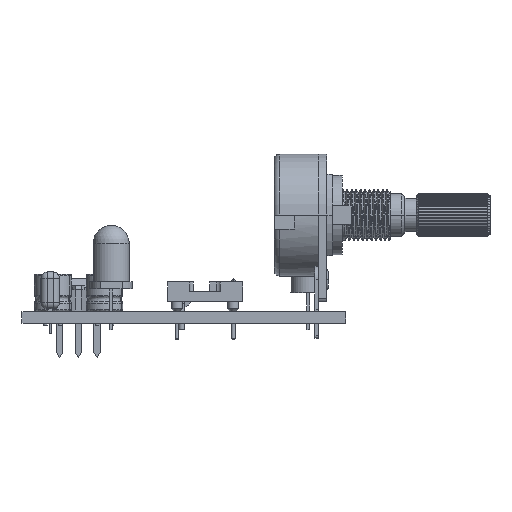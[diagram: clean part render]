
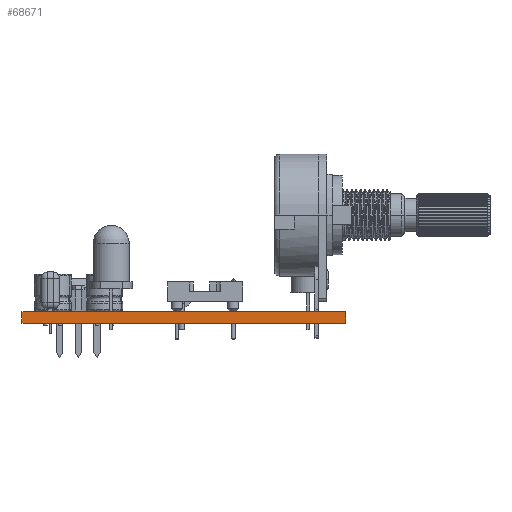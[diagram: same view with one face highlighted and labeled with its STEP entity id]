
A CAD part, front view. The second image highlights one B-rep face of the part: STEP entity #68671.
In plain terms, the highlighted planar face has unit normal (0, -1, 0).
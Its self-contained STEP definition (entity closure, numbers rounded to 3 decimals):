
#68490 = PLANE('',#68491);
#68491 = AXIS2_PLACEMENT_3D('',#68492,#68493,#68494);
#68492 = CARTESIAN_POINT('',(109.22,-24.13,0.));
#68493 = DIRECTION('',(1.,0.,0.));
#68494 = DIRECTION('',(0.,-1.,0.));
#68515 = VERTEX_POINT('',#68516);
#68516 = CARTESIAN_POINT('',(109.22,-182.88,1.6));
#68530 = PLANE('',#68531);
#68531 = AXIS2_PLACEMENT_3D('',#68532,#68533,#68534);
#68532 = CARTESIAN_POINT('',(131.128,-103.505,1.6));
#68533 = DIRECTION('',(0.,0.,1.));
#68534 = DIRECTION('',(1.,0.,0.));
#68542 = EDGE_CURVE('',#68543,#68515,#68545,.T.);
#68543 = VERTEX_POINT('',#68544);
#68544 = CARTESIAN_POINT('',(109.22,-182.88,0.));
#68545 = SURFACE_CURVE('',#68546,(#68550,#68557),.PCURVE_S1.);
#68546 = LINE('',#68547,#68548);
#68547 = CARTESIAN_POINT('',(109.22,-182.88,0.));
#68548 = VECTOR('',#68549,1.);
#68549 = DIRECTION('',(0.,0.,1.));
#68550 = PCURVE('',#68490,#68551);
#68551 = DEFINITIONAL_REPRESENTATION('',(#68552),#68556);
#68552 = LINE('',#68553,#68554);
#68553 = CARTESIAN_POINT('',(158.75,0.));
#68554 = VECTOR('',#68555,1.);
#68555 = DIRECTION('',(0.,-1.));
#68556 = ( GEOMETRIC_REPRESENTATION_CONTEXT(2) 
PARAMETRIC_REPRESENTATION_CONTEXT() REPRESENTATION_CONTEXT('2D SPACE',''
  ) );
#68557 = PCURVE('',#68558,#68563);
#68558 = PLANE('',#68559);
#68559 = AXIS2_PLACEMENT_3D('',#68560,#68561,#68562);
#68560 = CARTESIAN_POINT('',(109.22,-182.88,0.));
#68561 = DIRECTION('',(0.,1.,0.));
#68562 = DIRECTION('',(1.,0.,0.));
#68563 = DEFINITIONAL_REPRESENTATION('',(#68564),#68568);
#68564 = LINE('',#68565,#68566);
#68565 = CARTESIAN_POINT('',(0.,0.));
#68566 = VECTOR('',#68567,1.);
#68567 = DIRECTION('',(0.,-1.));
#68568 = ( GEOMETRIC_REPRESENTATION_CONTEXT(2) 
PARAMETRIC_REPRESENTATION_CONTEXT() REPRESENTATION_CONTEXT('2D SPACE',''
  ) );
#68584 = PLANE('',#68585);
#68585 = AXIS2_PLACEMENT_3D('',#68586,#68587,#68588);
#68586 = CARTESIAN_POINT('',(131.128,-103.505,0.));
#68587 = DIRECTION('',(0.,0.,1.));
#68588 = DIRECTION('',(1.,0.,0.));
#68617 = PLANE('',#68618);
#68618 = AXIS2_PLACEMENT_3D('',#68619,#68620,#68621);
#68619 = CARTESIAN_POINT('',(153.035,-182.88,0.));
#68620 = DIRECTION('',(-1.,0.,0.));
#68621 = DIRECTION('',(0.,1.,0.));
#68671 = ADVANCED_FACE('',(#68672),#68558,.F.);
#68672 = FACE_BOUND('',#68673,.F.);
#68673 = EDGE_LOOP('',(#68674,#68675,#68698,#68721));
#68674 = ORIENTED_EDGE('',*,*,#68542,.T.);
#68675 = ORIENTED_EDGE('',*,*,#68676,.T.);
#68676 = EDGE_CURVE('',#68515,#68677,#68679,.T.);
#68677 = VERTEX_POINT('',#68678);
#68678 = CARTESIAN_POINT('',(153.035,-182.88,1.6));
#68679 = SURFACE_CURVE('',#68680,(#68684,#68691),.PCURVE_S1.);
#68680 = LINE('',#68681,#68682);
#68681 = CARTESIAN_POINT('',(109.22,-182.88,1.6));
#68682 = VECTOR('',#68683,1.);
#68683 = DIRECTION('',(1.,0.,0.));
#68684 = PCURVE('',#68558,#68685);
#68685 = DEFINITIONAL_REPRESENTATION('',(#68686),#68690);
#68686 = LINE('',#68687,#68688);
#68687 = CARTESIAN_POINT('',(0.,-1.6));
#68688 = VECTOR('',#68689,1.);
#68689 = DIRECTION('',(1.,0.));
#68690 = ( GEOMETRIC_REPRESENTATION_CONTEXT(2) 
PARAMETRIC_REPRESENTATION_CONTEXT() REPRESENTATION_CONTEXT('2D SPACE',''
  ) );
#68691 = PCURVE('',#68530,#68692);
#68692 = DEFINITIONAL_REPRESENTATION('',(#68693),#68697);
#68693 = LINE('',#68694,#68695);
#68694 = CARTESIAN_POINT('',(-21.908,-79.375));
#68695 = VECTOR('',#68696,1.);
#68696 = DIRECTION('',(1.,0.));
#68697 = ( GEOMETRIC_REPRESENTATION_CONTEXT(2) 
PARAMETRIC_REPRESENTATION_CONTEXT() REPRESENTATION_CONTEXT('2D SPACE',''
  ) );
#68698 = ORIENTED_EDGE('',*,*,#68699,.F.);
#68699 = EDGE_CURVE('',#68700,#68677,#68702,.T.);
#68700 = VERTEX_POINT('',#68701);
#68701 = CARTESIAN_POINT('',(153.035,-182.88,0.));
#68702 = SURFACE_CURVE('',#68703,(#68707,#68714),.PCURVE_S1.);
#68703 = LINE('',#68704,#68705);
#68704 = CARTESIAN_POINT('',(153.035,-182.88,0.));
#68705 = VECTOR('',#68706,1.);
#68706 = DIRECTION('',(0.,0.,1.));
#68707 = PCURVE('',#68558,#68708);
#68708 = DEFINITIONAL_REPRESENTATION('',(#68709),#68713);
#68709 = LINE('',#68710,#68711);
#68710 = CARTESIAN_POINT('',(43.815,0.));
#68711 = VECTOR('',#68712,1.);
#68712 = DIRECTION('',(0.,-1.));
#68713 = ( GEOMETRIC_REPRESENTATION_CONTEXT(2) 
PARAMETRIC_REPRESENTATION_CONTEXT() REPRESENTATION_CONTEXT('2D SPACE',''
  ) );
#68714 = PCURVE('',#68617,#68715);
#68715 = DEFINITIONAL_REPRESENTATION('',(#68716),#68720);
#68716 = LINE('',#68717,#68718);
#68717 = CARTESIAN_POINT('',(0.,0.));
#68718 = VECTOR('',#68719,1.);
#68719 = DIRECTION('',(0.,-1.));
#68720 = ( GEOMETRIC_REPRESENTATION_CONTEXT(2) 
PARAMETRIC_REPRESENTATION_CONTEXT() REPRESENTATION_CONTEXT('2D SPACE',''
  ) );
#68721 = ORIENTED_EDGE('',*,*,#68722,.F.);
#68722 = EDGE_CURVE('',#68543,#68700,#68723,.T.);
#68723 = SURFACE_CURVE('',#68724,(#68728,#68735),.PCURVE_S1.);
#68724 = LINE('',#68725,#68726);
#68725 = CARTESIAN_POINT('',(109.22,-182.88,0.));
#68726 = VECTOR('',#68727,1.);
#68727 = DIRECTION('',(1.,0.,0.));
#68728 = PCURVE('',#68558,#68729);
#68729 = DEFINITIONAL_REPRESENTATION('',(#68730),#68734);
#68730 = LINE('',#68731,#68732);
#68731 = CARTESIAN_POINT('',(0.,0.));
#68732 = VECTOR('',#68733,1.);
#68733 = DIRECTION('',(1.,0.));
#68734 = ( GEOMETRIC_REPRESENTATION_CONTEXT(2) 
PARAMETRIC_REPRESENTATION_CONTEXT() REPRESENTATION_CONTEXT('2D SPACE',''
  ) );
#68735 = PCURVE('',#68584,#68736);
#68736 = DEFINITIONAL_REPRESENTATION('',(#68737),#68741);
#68737 = LINE('',#68738,#68739);
#68738 = CARTESIAN_POINT('',(-21.908,-79.375));
#68739 = VECTOR('',#68740,1.);
#68740 = DIRECTION('',(1.,0.));
#68741 = ( GEOMETRIC_REPRESENTATION_CONTEXT(2) 
PARAMETRIC_REPRESENTATION_CONTEXT() REPRESENTATION_CONTEXT('2D SPACE',''
  ) );
